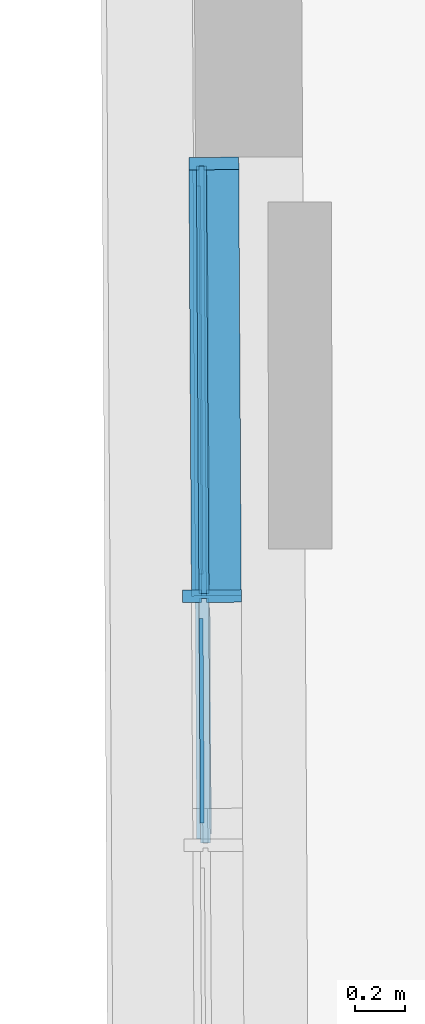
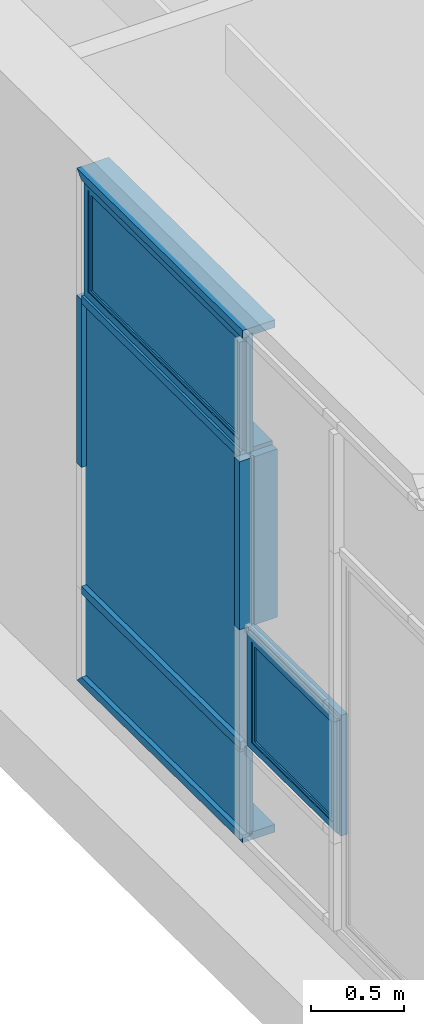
# One storey, part 96 of 158: 12 building element parts, 1 element without a shape of its own.
"""IFC2X3 building model written with IfcOpenShell, lengths in metres."""

import ifcopenshell
import ifcopenshell.guid

model = None  # the IFC model being written
_history = None  # IfcOwnerHistory: only IFC2X3 demands one
_inside = {}  # id of a spatial element -> (the spatial element, [elements in it])
_under = {}  # id of a project, library or spatial element -> (it, [spatial elements below it])
_declared = {}  # id of a project -> (the project, [libraries it declares])
_typed = {}  # id of a type object -> (the type object, [elements of that type])
_made_of = {}  # id of a material, layer set ... -> (it, [elements and type objects made of it])


def new_model(schema):
    """Start an empty IFC model of exactly this schema.

    Asked for "IFC4X3", IfcOpenShell would pick the latest addendum, in which some entities
    have other attributes; the version numbers below select the first issue.
    IFC2X3 requires an IfcOwnerHistory on every rooted entity: one is made here for all.
    """
    global model, _history
    if schema == "IFC4X3":
        model = ifcopenshell.file(schema_version=(4, 3, 0, 0))
    else:
        model = ifcopenshell.file(schema=schema)
    _inside.clear()
    _under.clear()
    _declared.clear()
    _typed.clear()
    _made_of.clear()
    _history = None
    if model.schema == "IFC2X3":
        org = make("IfcOrganization", Name="unknown")
        user = make(
            "IfcPersonAndOrganization",
            ThePerson=make("IfcPerson", FamilyName="unknown"),
            TheOrganization=org,
        )
        app = make(
            "IfcApplication",
            ApplicationDeveloper=org,
            Version="unknown",
            ApplicationFullName="unknown",
            ApplicationIdentifier="unknown",
        )
        _history = make(
            "IfcOwnerHistory",
            OwningUser=user,
            OwningApplication=app,
            ChangeAction="ADDED",
            CreationDate=0,
        )
    return model


def make(cls, **values):
    """One entity of the class cls with the attributes given. An attribute that is None is left unset."""
    return model.create_entity(
        cls, **{name: value for name, value in values.items() if value is not None}
    )


def entity(cls, *values):
    """Any entity or typed value of the class cls, its attributes in the order of the schema. None: left unset."""
    e = model.create_entity(cls)
    for i, value in enumerate(values):
        if value is not None:
            e[i] = value
    return e


def rooted(cls, **values):
    """An entity with a GlobalId (a new one), such as an element, a storey or a relation."""
    return make(cls, GlobalId=ifcopenshell.guid.new(), OwnerHistory=_history, **values)


def si_unit(unit_type, name, prefix=None):
    """IfcSIUnit, for example si_unit("LENGTHUNIT", "METRE", prefix="MILLI")."""
    return make("IfcSIUnit", UnitType=unit_type, Prefix=prefix, Name=name)


def converted_unit(unit_type, name, factor, base, dimensions=None, offset=None):
    """IfcConversionBasedUnit, such as the inch: factor (a typed value) times the base unit."""
    return make(
        "IfcConversionBasedUnit"
        if offset is None
        else "IfcConversionBasedUnitWithOffset",
        ConversionOffset=offset,
        Dimensions=None
        if dimensions is None
        else entity("IfcDimensionalExponents", *dimensions),
        UnitType=unit_type,
        Name=name,
        ConversionFactor=make(
            "IfcMeasureWithUnit", ValueComponent=factor, UnitComponent=base
        ),
    )


def derived_unit(unit_type, elements):
    """IfcDerivedUnit: a product of units, each with its exponent."""
    return make(
        "IfcDerivedUnit",
        Elements=[
            make("IfcDerivedUnitElement", Unit=unit, Exponent=power)
            for unit, power in elements
        ],
        UnitType=unit_type,
    )


def money_unit(currency):
    """IfcMonetaryUnit."""
    return make("IfcMonetaryUnit", Currency=currency)


def assignment(units):
    """IfcUnitAssignment: the units of a project."""
    return None if units is None else make("IfcUnitAssignment", Units=units)


def point(xyz):
    """IfcCartesianPoint."""
    return None if xyz is None else make("IfcCartesianPoint", Coordinates=xyz)


def direction(xyz):
    """IfcDirection."""
    return None if xyz is None else make("IfcDirection", DirectionRatios=xyz)


def frame(location, z_axis=None, x_axis=None):
    """IfcAxis2Placement3D, a coordinate frame: its origin and axes. An axis left out is left unset."""
    return make(
        "IfcAxis2Placement3D",
        Location=point(location),
        Axis=direction(z_axis),
        RefDirection=direction(x_axis),
    )


def origin_with_axes():
    """The frame at (0, 0, 0) with the z axis (0, 0, 1) and the x axis (1, 0, 0) written out."""
    return frame((0.0, 0.0, 0.0), z_axis=(0.0, 0.0, 1.0), x_axis=(1.0, 0.0, 0.0))


def place(relative_to, where):
    """IfcLocalPlacement: puts the frame where relative to a parent placement (None: the world)."""
    return make(
        "IfcLocalPlacement", PlacementRelTo=relative_to, RelativePlacement=where
    )


def context(
    kind, dimensions, precision=None, world=None, true_north=None, identifier=None
):
    """IfcGeometricRepresentationContext, for example the 3D "Model" context."""
    return make(
        "IfcGeometricRepresentationContext",
        ContextIdentifier=identifier,
        ContextType=kind,
        CoordinateSpaceDimension=dimensions,
        Precision=precision,
        WorldCoordinateSystem=world,
        TrueNorth=true_north,
    )


def subcontext(parent, identifier, kind, view, scale=None):
    """IfcGeometricRepresentationSubContext, for example "Body" below "Model"."""
    return make(
        "IfcGeometricRepresentationSubContext",
        ContextIdentifier=identifier,
        ContextType=kind,
        ParentContext=parent,
        TargetScale=scale,
        TargetView=view,
    )


def project(units=None, contexts=None):
    """IfcProject with its units and contexts."""
    return rooted(
        "IfcProject",
        Name="project",
        RepresentationContexts=contexts,
        UnitsInContext=assignment(units),
    )


def spatial(cls, under=None, at=None, **own):
    """A site, building, storey or space (cls), placed at a placement, below another one or the project."""
    s = rooted(cls, ObjectPlacement=at, **own)
    if under is not None:
        _under.setdefault(under.id(), (under, []))[1].append(s)
    return s


def faces_of(points, faces, orient=None, outer=None):
    """IfcFace entities. A face is a list of loops; a loop is a list of indices into points, from 0.

    orient and outer hold one flag for each loop. By default every Orientation is true, the
    first loop of a face is its IfcFaceOuterBound and the others are IfcFaceBound.
    """
    made = []
    for i, loops in enumerate(faces):
        bounds = []
        for j, loop in enumerate(loops):
            is_outer = j == 0 if outer is None else outer[i][j]
            bounds.append(
                make(
                    "IfcFaceOuterBound" if is_outer else "IfcFaceBound",
                    Bound=make("IfcPolyLoop", Polygon=[points[k] for k in loop]),
                    Orientation=True if orient is None else orient[i][j],
                )
            )
        made.append(make("IfcFace", Bounds=bounds))
    return made


def faceted_brep(points, faces, orient=None, outer=None, voids=None):
    """IfcFacetedBrep: a solid bounded by flat faces; with voids (closed shells), ...WithVoids."""
    shared = [point(p) for p in points]
    hull = make("IfcClosedShell", CfsFaces=faces_of(shared, faces, orient, outer))
    if voids is None:
        return make("IfcFacetedBrep", Outer=hull)
    return make(
        "IfcFacetedBrepWithVoids",
        Outer=hull,
        Voids=[
            make(cls, CfsFaces=faces_of(shared, fs, o, b)) for cls, fs, o, b in voids
        ],
    )


def shape(context_of_items, identifier, shape_type, items):
    """IfcShapeRepresentation: the items that make up one representation, for example the "Body"."""
    return make(
        "IfcShapeRepresentation",
        ContextOfItems=context_of_items,
        RepresentationIdentifier=identifier,
        RepresentationType=shape_type,
        Items=items,
    )


def material(Name=None, Category=None):
    """IfcMaterial."""
    return make("IfcMaterial", Name=Name, Category=Category)


def made_of(thing, what):
    """Note that an element or type object is made of a material, layer set ...; save() writes the relation."""
    if what is not None:
        _made_of.setdefault(what.id(), (what, []))[1].append(thing)
    return thing


def type_object(cls, material=None, **own):
    """A type object (cls), such as IfcWallType, which elements share."""
    return made_of(rooted(cls, **own), material)


def element(
    cls,
    number,
    at=None,
    inside=None,
    cuts=None,
    type_object=None,
    material=None,
    context=None,
    identifier="Body",
    shape_type=None,
    held_by="IfcProductDefinitionShape",
    body=None,
    shapes=None,
    **own,
):
    """One element of the class cls, such as IfcWall. Its Tag is "e" and its number.

    at: its placement. inside: the storey or other place that contains it. cuts: it is an
    opening in that element (IfcRelVoidsElement). A single representation is given by context,
    identifier, shape_type and body (its items); several are given by shapes. held_by: the class
    of the entity that holds the representations. save() writes the other relations.
    """
    e = rooted(cls, Tag="e%d" % number, ObjectPlacement=at, **own)
    if body is not None:
        shapes = [shape(context, identifier, shape_type, body)]
    if shapes is not None:
        e.Representation = make(held_by, Representations=shapes)
    if inside is not None:
        _inside.setdefault(inside.id(), (inside, []))[1].append(e)
    if cuts is not None:
        rooted(
            "IfcRelVoidsElement", RelatingBuildingElement=cuts, RelatedOpeningElement=e
        )
    if type_object is not None:
        _typed.setdefault(type_object.id(), (type_object, []))[1].append(e)
    return made_of(e, material)


def aggregate(whole, parts):
    """IfcRelAggregates: a whole, such as a stair, and the parts it consists of."""
    return rooted("IfcRelAggregates", RelatingObject=whole, RelatedObjects=parts)


def save(model, path):
    """Write the relations noted so far, then the file.

    IfcRelAggregates (storeys below a building ...), IfcRelContainedInSpatialStructure (elements
    in a storey), IfcRelDefinesByType, IfcRelAssociatesMaterial and IfcRelDeclares: one each for
    every whole, place, type object, material and project.
    """
    for whole, parts in _under.values():
        aggregate(whole, parts)
    for where, things in _inside.values():
        rooted(
            "IfcRelContainedInSpatialStructure",
            RelatedElements=things,
            RelatingStructure=where,
        )
    for kind, things in _typed.values():
        rooted("IfcRelDefinesByType", RelatedObjects=things, RelatingType=kind)
    for what, things in _made_of.values():
        rooted("IfcRelAssociatesMaterial", RelatedObjects=things, RelatingMaterial=what)
    for by, libraries in _declared.values():
        rooted("IfcRelDeclares", RelatingContext=by, RelatedDefinitions=libraries)
    model.write(path)


model = new_model("IFC2X3")

# Units and contexts
model_context = context("Model", 3, precision=1e-05, world=origin_with_axes(), true_north=direction((0.0, 1.0)))
body_context = subcontext(model_context, "Body", "Model", "MODEL_VIEW")
ifc_project = project(units=[si_unit("LENGTHUNIT", "METRE"), si_unit("AREAUNIT", "SQUARE_METRE"), si_unit("VOLUMEUNIT", "CUBIC_METRE"), converted_unit("PLANEANGLEUNIT", "DEGREE", entity("IfcPlaneAngleMeasure", 0.0174532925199), si_unit("PLANEANGLEUNIT", "RADIAN"), dimensions=[0, 0, 0, 0, 0, 0, 0]), money_unit("EUR"), converted_unit("TIMEUNIT", "Year", entity("IfcTimeMeasure", 31556926.0), si_unit("TIMEUNIT", "SECOND"), dimensions=[0, 0, 1, 0, 0, 0, 0]), si_unit("MASSUNIT", "GRAM", prefix="KILO"), si_unit("THERMODYNAMICTEMPERATUREUNIT", "DEGREE_CELSIUS"), si_unit("LUMINOUSINTENSITYUNIT", "LUMEN"), si_unit("ENERGYUNIT", "JOULE", prefix="MEGA"), derived_unit("THERMALCONDUCTANCEUNIT", [(si_unit("POWERUNIT", "WATT"), 1), (si_unit("LENGTHUNIT", "METRE"), -1), (si_unit("THERMODYNAMICTEMPERATUREUNIT", "KELVIN"), -1)]), derived_unit("SPECIFICHEATCAPACITYUNIT", [(si_unit("ENERGYUNIT", "JOULE"), 1), (si_unit("MASSUNIT", "GRAM", prefix="KILO"), -1), (si_unit("THERMODYNAMICTEMPERATUREUNIT", "KELVIN"), -1)]), derived_unit("MASSDENSITYUNIT", [(si_unit("MASSUNIT", "GRAM", prefix="KILO"), 1), (si_unit("VOLUMEUNIT", "CUBIC_METRE"), -1)])], contexts=[model_context])

# Site, building, storey
site_placement = place(None, origin_with_axes())
site = spatial("IfcSite", under=ifc_project, at=site_placement, Name="Gelände", CompositionType="ELEMENT")
building_placement = place(site_placement, origin_with_axes())
building = spatial("IfcBuilding", under=site, at=building_placement, Name="Gebäude", CompositionType="ELEMENT")
storey_placement = place(building_placement, origin_with_axes())
storey = spatial("IfcBuildingStorey", under=building, at=storey_placement, Name="ERDGESCHOSS", CompositionType="ELEMENT", Elevation=0.0)

# Proxy, building element parts
building_element_proxy_type = type_object("IfcBuildingElementProxyType", Name="Fassadentyp", PredefinedType="NOTDEFINED")
proxy_placement = place(storey_placement, frame((-34.8120286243, 34.4012060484, 1.3404389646), z_axis=(0.0, 0.0, 1.0), x_axis=(1.0, 0.0, 0.0)))
proxy = element("IfcBuildingElementProxy", 1, at=proxy_placement, inside=storey, type_object=building_element_proxy_type, Name="Fassade-002")
ifc_material_1 = material(Name="45_Glas, Normalglas")
building_element_part_1_placement = place(proxy_placement, origin_with_axes())
building_element_part_1 = element("IfcBuildingElementPart", 2, at=building_element_part_1_placement, material=ifc_material_1, Name="45_Glas, Normalglas", context=body_context, shape_type="Brep", body=[
    faceted_brep([(-0.00916453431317, 4.97285122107, 0.610000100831), (-0.0192251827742, 6.68827439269, 0.610000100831), (-0.0592244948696, 6.68803980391, 0.610000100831), (-0.0491638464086, 4.9726166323, 0.610000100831), (-0.00916453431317, 4.97285122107, 0.035000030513), (-0.0192251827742, 6.68827439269, 0.0350000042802), (-0.0592244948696, 6.68803980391, 0.0350000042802), (-0.0491638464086, 4.9726166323, 0.035000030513)], [[[0, 1, 2, 3]], [[0, 4, 5, 1]], [[1, 5, 6, 2]], [[3, 2, 6, 7]], [[4, 0, 3, 7]], [[5, 4, 7, 6]]]),
])
building_element_part_2_placement = place(proxy_placement, origin_with_axes())
building_element_part_2 = element("IfcBuildingElementPart", 3, at=building_element_part_2_placement, material=ifc_material_1, Name="45_Glas, Normalglas", context=body_context, shape_type="Brep", body=[
    faceted_brep([(-0.0091645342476, 4.97285120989, 2.51000010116), (-0.0192251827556, 6.68827438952, 2.51000010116), (-0.059224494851, 6.68803980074, 2.51000010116), (-0.049163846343, 4.97261662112, 2.51000010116), (-0.0091645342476, 4.97285120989, 1.42000009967), (-0.0091645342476, 4.97285120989, 0.630000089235), (-0.0192251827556, 6.68827438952, 0.630000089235), (-0.0192251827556, 6.68827438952, 1.42000009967), (-0.059224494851, 6.68803980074, 1.42000009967), (-0.059224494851, 6.68803980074, 0.630000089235), (-0.049163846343, 4.97261662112, 0.630000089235), (-0.049163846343, 4.97261662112, 1.42000009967)], [[[0, 1, 2, 3]], [[0, 4, 5, 6, 7, 1]], [[1, 7, 8, 2]], [[3, 2, 8, 9, 10, 11]], [[4, 0, 3, 11]], [[5, 4, 11, 10]], [[6, 5, 10, 9]], [[7, 6, 9, 8]]]),
])
ifc_material_2 = material(Name="53_Metall, Aluminium")
building_element_part_3_placement = place(proxy_placement, origin_with_axes())
building_element_part_3 = element("IfcBuildingElementPart", 4, at=building_element_part_3_placement, material=ifc_material_2, Name="53_Metall, Aluminium", context=body_context, shape_type="Brep", body=[
    faceted_brep([(-0.0691363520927, 6.67298141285, 2.54500009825), (-0.0592516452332, 4.98755772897, 2.54500009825), (-0.0642515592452, 4.98752840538, 2.54500009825), (-0.0741362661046, 6.67295208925, 2.54500009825), (-0.0688724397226, 6.62798218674, 2.59000009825), (-0.0595155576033, 5.03255695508, 2.59000009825), (-0.0645154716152, 5.03252763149, 2.59000009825), (-0.0738723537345, 6.62795286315, 2.59000009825)], [[[0, 1, 2, 3]], [[0, 4, 5, 1]], [[1, 5, 6, 2]], [[3, 2, 6, 7]], [[4, 0, 3, 7]], [[5, 4, 7, 6]]]),
    faceted_brep([(-0.0592516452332, 4.98755772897, 2.54500009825), (-0.0592516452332, 4.98755772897, 3.29999998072), (-0.0642515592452, 4.98752840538, 3.29999998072), (-0.0642515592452, 4.98752840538, 2.54500009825), (-0.0595155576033, 5.03255695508, 2.59000009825), (-0.0595155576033, 5.03255695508, 3.25499998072), (-0.0645154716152, 5.03252763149, 3.25499998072), (-0.0645154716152, 5.03252763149, 2.59000009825)], [[[0, 1, 2, 3]], [[0, 4, 5, 1]], [[1, 5, 6, 2]], [[3, 2, 6, 7]], [[4, 0, 3, 7]], [[5, 4, 7, 6]]]),
    faceted_brep([(-0.0691363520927, 6.67298141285, 3.29999998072), (-0.0688724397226, 6.62798218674, 3.25499998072), (-0.0738723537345, 6.62795286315, 3.25499998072), (-0.0741362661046, 6.67295208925, 3.29999998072), (-0.0592516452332, 4.98755772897, 3.29999998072), (-0.0595155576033, 5.03255695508, 3.25499998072), (-0.0645154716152, 5.03252763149, 3.25499998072), (-0.0642515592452, 4.98752840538, 3.29999998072)], [[[0, 1, 2, 3]], [[0, 4, 5, 1]], [[1, 5, 6, 2]], [[3, 2, 6, 7]], [[4, 0, 3, 7]], [[5, 4, 7, 6]]]),
    faceted_brep([(-0.0691363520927, 6.67298141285, 2.54500009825), (-0.0688724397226, 6.62798218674, 2.59000009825), (-0.0738723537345, 6.62795286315, 2.59000009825), (-0.0741362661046, 6.67295208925, 2.54500009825), (-0.0691363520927, 6.67298141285, 3.29999998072), (-0.0688724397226, 6.62798218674, 3.25499998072), (-0.0738723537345, 6.62795286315, 3.25499998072), (-0.0741362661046, 6.67295208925, 3.29999998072)], [[[0, 1, 2, 3]], [[0, 4, 5, 1]], [[1, 5, 6, 2]], [[3, 2, 6, 7]], [[4, 0, 3, 7]], [[5, 4, 7, 6]]]),
    faceted_brep([(-0.0191372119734, 6.67327464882, 2.54500009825), (-0.00925250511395, 4.98785096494, 2.54500009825), (-0.0592516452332, 4.98755772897, 2.54500009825), (-0.0691363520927, 6.67298141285, 2.54500009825), (-0.0190199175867, 6.65327499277, 2.56500009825), (-0.00936979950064, 5.00785062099, 2.56500009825), (-0.0593689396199, 5.00755738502, 2.56500009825), (-0.069019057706, 6.6529817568, 2.56500009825)], [[[0, 1, 2, 3]], [[0, 4, 5, 1]], [[1, 5, 6, 2]], [[3, 2, 6, 7]], [[4, 0, 3, 7]], [[5, 4, 7, 6]]]),
    faceted_brep([(-0.00925250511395, 4.98785096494, 2.54500009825), (-0.00925250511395, 4.98785096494, 3.29999998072), (-0.0592516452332, 4.98755772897, 3.29999998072), (-0.0592516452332, 4.98755772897, 2.54500009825), (-0.00936979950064, 5.00785062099, 2.56500009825), (-0.00936979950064, 5.00785062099, 3.27999998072), (-0.0593689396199, 5.00755738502, 3.27999998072), (-0.0593689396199, 5.00755738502, 2.56500009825)], [[[0, 1, 2, 3]], [[0, 4, 5, 1]], [[1, 5, 6, 2]], [[3, 2, 6, 7]], [[4, 0, 3, 7]], [[5, 4, 7, 6]]]),
    faceted_brep([(-0.0191372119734, 6.67327464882, 3.29999998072), (-0.0190199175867, 6.65327499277, 3.27999998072), (-0.069019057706, 6.6529817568, 3.27999998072), (-0.0691363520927, 6.67298141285, 3.29999998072), (-0.00925250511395, 4.98785096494, 3.29999998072), (-0.00936979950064, 5.00785062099, 3.27999998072), (-0.0593689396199, 5.00755738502, 3.27999998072), (-0.0592516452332, 4.98755772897, 3.29999998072)], [[[0, 1, 2, 3]], [[0, 4, 5, 1]], [[1, 5, 6, 2]], [[3, 2, 6, 7]], [[4, 0, 3, 7]], [[5, 4, 7, 6]]]),
    faceted_brep([(-0.0191372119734, 6.67327464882, 2.54500009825), (-0.0190199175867, 6.65327499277, 2.56500009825), (-0.069019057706, 6.6529817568, 2.56500009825), (-0.0691363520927, 6.67298141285, 2.54500009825), (-0.0191372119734, 6.67327464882, 3.29999998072), (-0.0190199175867, 6.65327499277, 3.27999998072), (-0.069019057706, 6.6529817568, 3.27999998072), (-0.0691363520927, 6.67298141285, 3.29999998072)], [[[0, 1, 2, 3]], [[0, 4, 5, 1]], [[1, 5, 6, 2]], [[3, 2, 6, 7]], [[4, 0, 3, 7]], [[5, 4, 7, 6]]]),
    faceted_brep([(-0.0192251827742, 6.68827439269, 2.53000009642), (-0.00916453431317, 4.97285122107, 2.53000009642), (-0.0491638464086, 4.9726166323, 2.53000009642), (-0.0592244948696, 6.68803980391, 2.53000009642), (-0.0191372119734, 6.67327464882, 2.54500009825), (-0.00925250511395, 4.98785096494, 2.54500009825), (-0.0492518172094, 4.98761637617, 2.54500009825), (-0.0591365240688, 6.67304006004, 2.54500009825)], [[[0, 1, 2, 3]], [[0, 4, 5, 1]], [[1, 5, 6, 2]], [[3, 2, 6, 7]], [[4, 0, 3, 7]], [[5, 4, 7, 6]]]),
    faceted_brep([(-0.00916453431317, 4.97285122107, 2.53000009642), (-0.00916453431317, 4.97285122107, 3.31499998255), (-0.0491638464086, 4.9726166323, 3.31499998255), (-0.0491638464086, 4.9726166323, 2.53000009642), (-0.00925250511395, 4.98785096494, 2.54500009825), (-0.00925250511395, 4.98785096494, 3.29999998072), (-0.0492518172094, 4.98761637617, 3.29999998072), (-0.0492518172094, 4.98761637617, 2.54500009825)], [[[0, 1, 2, 3]], [[0, 4, 5, 1]], [[1, 5, 6, 2]], [[3, 2, 6, 7]], [[4, 0, 3, 7]], [[5, 4, 7, 6]]]),
    faceted_brep([(-0.00916453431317, 4.97285122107, 3.31499998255), (-0.0192251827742, 6.68827439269, 3.31499998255), (-0.0592244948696, 6.68803980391, 3.31499998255), (-0.0491638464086, 4.9726166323, 3.31499998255), (-0.00925250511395, 4.98785096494, 3.29999998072), (-0.0191372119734, 6.67327464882, 3.29999998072), (-0.0591365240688, 6.67304006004, 3.29999998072), (-0.0492518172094, 4.98761637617, 3.29999998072)], [[[0, 1, 2, 3]], [[0, 4, 5, 1]], [[1, 5, 6, 2]], [[3, 2, 6, 7]], [[4, 0, 3, 7]], [[5, 4, 7, 6]]]),
    faceted_brep([(-0.0192251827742, 6.68827439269, 3.31499998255), (-0.0192251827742, 6.68827439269, 2.53000009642), (-0.0592244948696, 6.68803980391, 2.53000009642), (-0.0592244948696, 6.68803980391, 3.31499998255), (-0.0191372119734, 6.67327464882, 3.29999998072), (-0.0191372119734, 6.67327464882, 2.54500009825), (-0.0591365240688, 6.67304006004, 2.54500009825), (-0.0591365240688, 6.67304006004, 3.29999998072)], [[[0, 1, 2, 3]], [[0, 4, 5, 1]], [[1, 5, 6, 2]], [[3, 2, 6, 7]], [[4, 0, 3, 7]], [[5, 4, 7, 6]]]),
    faceted_brep([(-0.0687551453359, 6.60798253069, 2.61000009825), (-0.0137560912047, 6.60830509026, 2.61000009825), (-0.0137560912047, 6.60830509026, 3.23499998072), (-0.0687551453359, 6.60798253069, 3.23499998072), (-0.069019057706, 6.6529817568, 2.56500009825), (-0.0140200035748, 6.65330431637, 2.56500009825), (-0.0140200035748, 6.65330431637, 3.27999998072), (-0.069019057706, 6.6529817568, 3.27999998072)], [[[0, 1, 2, 3]], [[4, 5, 1, 0]], [[1, 5, 6, 2]], [[3, 2, 6, 7]], [[0, 3, 7, 4]], [[7, 6, 5, 4]]]),
    faceted_brep([(-0.0593689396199, 5.00755738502, 2.56500009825), (-0.00436988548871, 5.00787994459, 2.56500009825), (-0.00436988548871, 5.00787994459, 3.27999998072), (-0.0593689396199, 5.00755738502, 3.27999998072), (-0.05963285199, 5.05255661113, 2.61000009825), (-0.00463379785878, 5.05287917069, 2.61000009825), (-0.00463379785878, 5.05287917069, 3.23499998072), (-0.05963285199, 5.05255661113, 3.23499998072)], [[[0, 1, 2, 3]], [[4, 5, 1, 0]], [[1, 5, 6, 2]], [[3, 2, 6, 7]], [[0, 3, 7, 4]], [[7, 6, 5, 4]]]),
    faceted_brep([(-0.0593689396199, 5.00755738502, 2.56500009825), (-0.00436988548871, 5.00787994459, 2.56500009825), (-0.00463379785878, 5.05287917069, 2.61000009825), (-0.05963285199, 5.05255661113, 2.61000009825), (-0.069019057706, 6.6529817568, 2.56500009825), (-0.0140200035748, 6.65330431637, 2.56500009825), (-0.0137560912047, 6.60830509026, 2.61000009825), (-0.0687551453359, 6.60798253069, 2.61000009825)], [[[0, 1, 2, 3]], [[4, 5, 1, 0]], [[1, 5, 6, 2]], [[3, 2, 6, 7]], [[0, 3, 7, 4]], [[7, 6, 5, 4]]]),
    faceted_brep([(-0.069019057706, 6.6529817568, 3.27999998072), (-0.0140200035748, 6.65330431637, 3.27999998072), (-0.0137560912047, 6.60830509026, 3.23499998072), (-0.0687551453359, 6.60798253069, 3.23499998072), (-0.0593689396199, 5.00755738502, 3.27999998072), (-0.00436988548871, 5.00787994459, 3.27999998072), (-0.00463379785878, 5.05287917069, 3.23499998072), (-0.05963285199, 5.05255661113, 3.23499998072)], [[[0, 1, 2, 3]], [[4, 5, 1, 0]], [[1, 5, 6, 2]], [[3, 2, 6, 7]], [[0, 3, 7, 4]], [[7, 6, 5, 4]]]),
])
building_element_part_4_placement = place(proxy_placement, origin_with_axes())
building_element_part_4 = element("IfcBuildingElementPart", 5, at=building_element_part_4_placement, material=ifc_material_1, Name="45_Glas, Normalglas", context=body_context, shape_type="Brep", body=[
    faceted_brep([(-0.058755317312, 6.60804117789, 2.61000009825), (-0.0427555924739, 6.6081350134, 2.61000009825), (-0.033633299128, 5.05270909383, 2.61000009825), (-0.0496330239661, 5.05261525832, 2.61000009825), (-0.058755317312, 6.60804117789, 3.23499998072), (-0.0427555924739, 6.6081350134, 3.23499998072), (-0.033633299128, 5.05270909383, 3.23499998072), (-0.0496330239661, 5.05261525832, 3.23499998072)], [[[0, 1, 2, 3]], [[4, 5, 1, 0]], [[1, 5, 6, 2]], [[3, 2, 6, 7]], [[0, 3, 7, 4]], [[7, 6, 5, 4]]]),
])
building_element_part_5_placement = place(proxy_placement, origin_with_axes())
building_element_part_5 = element("IfcBuildingElementPart", 6, at=building_element_part_5_placement, material=ifc_material_2, Name="53_Metall, Aluminium", context=body_context, shape_type="Brep", body=[
    faceted_brep([(-0.0589584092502, 4.93755858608, 0.645000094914), (-0.0533903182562, 3.98815335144, 0.645000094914), (-0.0583902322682, 3.98812402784, 0.645000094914), (-0.0639583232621, 4.93752926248, 0.645000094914), (-0.0586944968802, 4.89255935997, 0.690000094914), (-0.0536542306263, 4.03315257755, 0.690000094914), (-0.0586541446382, 4.03312325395, 0.690000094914), (-0.0636944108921, 4.89253003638, 0.690000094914)], [[[0, 1, 2, 3]], [[0, 4, 5, 1]], [[1, 5, 6, 2]], [[3, 2, 6, 7]], [[4, 0, 3, 7]], [[5, 4, 7, 6]]]),
    faceted_brep([(-0.0533903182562, 3.98815335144, 0.645000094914), (-0.0533903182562, 3.98815335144, 1.39500010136), (-0.0583902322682, 3.98812402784, 1.39500010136), (-0.0583902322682, 3.98812402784, 0.645000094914), (-0.0536542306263, 4.03315257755, 0.690000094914), (-0.0536542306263, 4.03315257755, 1.35000010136), (-0.0586541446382, 4.03312325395, 1.35000010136), (-0.0586541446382, 4.03312325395, 0.690000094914)], [[[0, 1, 2, 3]], [[0, 4, 5, 1]], [[1, 5, 6, 2]], [[3, 2, 6, 7]], [[4, 0, 3, 7]], [[5, 4, 7, 6]]]),
    faceted_brep([(-0.0589584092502, 4.93755858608, 1.39500010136), (-0.0586944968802, 4.89255935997, 1.35000010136), (-0.0636944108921, 4.89253003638, 1.35000010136), (-0.0639583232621, 4.93752926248, 1.39500010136), (-0.0533903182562, 3.98815335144, 1.39500010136), (-0.0536542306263, 4.03315257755, 1.35000010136), (-0.0586541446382, 4.03312325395, 1.35000010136), (-0.0583902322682, 3.98812402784, 1.39500010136)], [[[0, 1, 2, 3]], [[0, 4, 5, 1]], [[1, 5, 6, 2]], [[3, 2, 6, 7]], [[4, 0, 3, 7]], [[5, 4, 7, 6]]]),
    faceted_brep([(-0.0589584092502, 4.93755858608, 0.645000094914), (-0.0586944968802, 4.89255935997, 0.690000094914), (-0.0636944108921, 4.89253003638, 0.690000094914), (-0.0639583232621, 4.93752926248, 0.645000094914), (-0.0589584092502, 4.93755858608, 1.39500010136), (-0.0586944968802, 4.89255935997, 1.35000010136), (-0.0636944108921, 4.89253003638, 1.35000010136), (-0.0639583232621, 4.93752926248, 1.39500010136)], [[[0, 1, 2, 3]], [[0, 4, 5, 1]], [[1, 5, 6, 2]], [[3, 2, 6, 7]], [[4, 0, 3, 7]], [[5, 4, 7, 6]]]),
    faceted_brep([(-0.00895926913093, 4.93785182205, 0.645000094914), (-0.00339117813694, 3.98844658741, 0.645000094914), (-0.0533903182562, 3.98815335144, 0.645000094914), (-0.0589584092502, 4.93755858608, 0.645000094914), (-0.00884197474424, 4.917852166, 0.665000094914), (-0.00350847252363, 4.00844624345, 0.665000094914), (-0.0535076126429, 4.00815300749, 0.665000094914), (-0.0588411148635, 4.91755893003, 0.665000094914)], [[[0, 1, 2, 3]], [[0, 4, 5, 1]], [[1, 5, 6, 2]], [[3, 2, 6, 7]], [[4, 0, 3, 7]], [[5, 4, 7, 6]]]),
    faceted_brep([(-0.00339117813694, 3.98844658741, 0.645000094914), (-0.00339117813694, 3.98844658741, 1.39500010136), (-0.0533903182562, 3.98815335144, 1.39500010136), (-0.0533903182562, 3.98815335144, 0.645000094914), (-0.00350847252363, 4.00844624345, 0.665000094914), (-0.00350847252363, 4.00844624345, 1.37500010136), (-0.0535076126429, 4.00815300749, 1.37500010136), (-0.0535076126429, 4.00815300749, 0.665000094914)], [[[0, 1, 2, 3]], [[0, 4, 5, 1]], [[1, 5, 6, 2]], [[3, 2, 6, 7]], [[4, 0, 3, 7]], [[5, 4, 7, 6]]]),
    faceted_brep([(-0.00895926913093, 4.93785182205, 1.39500010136), (-0.00884197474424, 4.917852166, 1.37500010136), (-0.0588411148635, 4.91755893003, 1.37500010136), (-0.0589584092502, 4.93755858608, 1.39500010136), (-0.00339117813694, 3.98844658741, 1.39500010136), (-0.00350847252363, 4.00844624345, 1.37500010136), (-0.0535076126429, 4.00815300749, 1.37500010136), (-0.0533903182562, 3.98815335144, 1.39500010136)], [[[0, 1, 2, 3]], [[0, 4, 5, 1]], [[1, 5, 6, 2]], [[3, 2, 6, 7]], [[4, 0, 3, 7]], [[5, 4, 7, 6]]]),
    faceted_brep([(-0.00895926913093, 4.93785182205, 0.645000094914), (-0.00884197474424, 4.917852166, 0.665000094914), (-0.0588411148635, 4.91755893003, 0.665000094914), (-0.0589584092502, 4.93755858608, 0.645000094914), (-0.00895926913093, 4.93785182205, 1.39500010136), (-0.00884197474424, 4.917852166, 1.37500010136), (-0.0588411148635, 4.91755893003, 1.37500010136), (-0.0589584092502, 4.93755858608, 1.39500010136)], [[[0, 1, 2, 3]], [[0, 4, 5, 1]], [[1, 5, 6, 2]], [[3, 2, 6, 7]], [[4, 0, 3, 7]], [[5, 4, 7, 6]]]),
    faceted_brep([(-0.0090472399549, 4.95285156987, 0.630000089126), (-0.00330320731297, 3.97344683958, 0.630000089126), (-0.0433025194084, 3.97321225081, 0.630000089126), (-0.0490465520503, 4.9526169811, 0.630000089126), (-0.00895926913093, 4.93785182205, 0.645000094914), (-0.00339117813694, 3.98844658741, 0.645000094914), (-0.0433904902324, 3.98821199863, 0.645000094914), (-0.0489585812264, 4.93761723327, 0.645000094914)], [[[0, 1, 2, 3]], [[0, 4, 5, 1]], [[1, 5, 6, 2]], [[3, 2, 6, 7]], [[4, 0, 3, 7]], [[5, 4, 7, 6]]]),
    faceted_brep([(-0.00330320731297, 3.97344683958, 0.630000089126), (-0.00330320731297, 3.97344683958, 1.42000010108), (-0.0433025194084, 3.97321225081, 1.42000010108), (-0.0433025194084, 3.97321225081, 0.630000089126), (-0.00339117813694, 3.98844658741, 0.645000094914), (-0.00339117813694, 3.98844658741, 1.39500010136), (-0.0433904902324, 3.98821199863, 1.39500010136), (-0.0433904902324, 3.98821199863, 0.645000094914)], [[[0, 1, 2, 3]], [[0, 4, 5, 1]], [[1, 5, 6, 2]], [[3, 2, 6, 7]], [[4, 0, 3, 7]], [[5, 4, 7, 6]]]),
    faceted_brep([(-0.00330320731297, 3.97344683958, 1.42000010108), (-0.0090472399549, 4.95285156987, 1.42000010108), (-0.0490465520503, 4.9526169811, 1.42000010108), (-0.0433025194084, 3.97321225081, 1.42000010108), (-0.00339117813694, 3.98844658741, 1.39500010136), (-0.00895926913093, 4.93785182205, 1.39500010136), (-0.0489585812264, 4.93761723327, 1.39500010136), (-0.0433904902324, 3.98821199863, 1.39500010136)], [[[0, 1, 2, 3]], [[0, 4, 5, 1]], [[1, 5, 6, 2]], [[3, 2, 6, 7]], [[4, 0, 3, 7]], [[5, 4, 7, 6]]]),
    faceted_brep([(-0.0090472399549, 4.95285156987, 1.42000010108), (-0.0090472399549, 4.95285156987, 0.630000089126), (-0.0490465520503, 4.9526169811, 0.630000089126), (-0.0490465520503, 4.9526169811, 1.42000010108), (-0.00895926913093, 4.93785182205, 1.39500010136), (-0.00895926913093, 4.93785182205, 0.645000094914), (-0.0489585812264, 4.93761723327, 0.645000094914), (-0.0489585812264, 4.93761723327, 1.39500010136)], [[[0, 1, 2, 3]], [[0, 4, 5, 1]], [[1, 5, 6, 2]], [[3, 2, 6, 7]], [[4, 0, 3, 7]], [[5, 4, 7, 6]]]),
    faceted_brep([(-0.0585772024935, 4.87255970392, 0.710000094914), (-0.00357814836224, 4.87288226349, 0.710000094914), (-0.00357814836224, 4.87288226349, 1.33000010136), (-0.0585772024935, 4.87255970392, 1.33000010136), (-0.0588411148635, 4.91755893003, 0.665000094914), (-0.00384206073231, 4.9178814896, 0.665000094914), (-0.00384206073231, 4.9178814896, 1.37500010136), (-0.0588411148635, 4.91755893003, 1.37500010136)], [[[0, 1, 2, 3]], [[4, 5, 1, 0]], [[1, 5, 6, 2]], [[3, 2, 6, 7]], [[0, 3, 7, 4]], [[7, 6, 5, 4]]]),
    faceted_brep([(-0.0535076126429, 4.00815300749, 0.665000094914), (0.0014914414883, 4.00847556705, 0.665000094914), (0.0014914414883, 4.00847556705, 1.37500010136), (-0.0535076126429, 4.00815300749, 1.37500010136), (-0.053771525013, 4.05315223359, 0.710000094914), (0.00122752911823, 4.05347479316, 0.710000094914), (0.00122752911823, 4.05347479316, 1.33000010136), (-0.053771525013, 4.05315223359, 1.33000010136)], [[[0, 1, 2, 3]], [[4, 5, 1, 0]], [[1, 5, 6, 2]], [[3, 2, 6, 7]], [[0, 3, 7, 4]], [[7, 6, 5, 4]]]),
    faceted_brep([(-0.0535076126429, 4.00815300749, 0.665000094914), (0.0014914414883, 4.00847556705, 0.665000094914), (0.00122752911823, 4.05347479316, 0.710000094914), (-0.053771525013, 4.05315223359, 0.710000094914), (-0.0588411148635, 4.91755893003, 0.665000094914), (-0.00384206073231, 4.9178814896, 0.665000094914), (-0.00357814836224, 4.87288226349, 0.710000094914), (-0.0585772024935, 4.87255970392, 0.710000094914)], [[[0, 1, 2, 3]], [[4, 5, 1, 0]], [[1, 5, 6, 2]], [[3, 2, 6, 7]], [[0, 3, 7, 4]], [[7, 6, 5, 4]]]),
    faceted_brep([(-0.0588411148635, 4.91755893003, 1.37500010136), (-0.00384206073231, 4.9178814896, 1.37500010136), (-0.00357814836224, 4.87288226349, 1.33000010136), (-0.0585772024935, 4.87255970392, 1.33000010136), (-0.0535076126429, 4.00815300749, 1.37500010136), (0.0014914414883, 4.00847556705, 1.37500010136), (0.00122752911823, 4.05347479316, 1.33000010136), (-0.053771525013, 4.05315223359, 1.33000010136)], [[[0, 1, 2, 3]], [[4, 5, 1, 0]], [[1, 5, 6, 2]], [[3, 2, 6, 7]], [[0, 3, 7, 4]], [[7, 6, 5, 4]]]),
])
building_element_part_6_placement = place(proxy_placement, origin_with_axes())
building_element_part_6 = element("IfcBuildingElementPart", 7, at=building_element_part_6_placement, material=ifc_material_1, Name="45_Glas, Normalglas", context=body_context, shape_type="Brep", body=[
    faceted_brep([(-0.0485773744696, 4.87261835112, 0.710000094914), (-0.0325776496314, 4.87271218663, 0.710000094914), (-0.027771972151, 4.0533047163, 0.710000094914), (-0.0437716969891, 4.05321088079, 0.710000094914), (-0.0485773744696, 4.87261835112, 1.33000010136), (-0.0325776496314, 4.87271218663, 1.33000010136), (-0.027771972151, 4.0533047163, 1.33000010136), (-0.0437716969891, 4.05321088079, 1.33000010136)], [[[0, 1, 2, 3]], [[4, 5, 1, 0]], [[1, 5, 6, 2]], [[3, 2, 6, 7]], [[0, 3, 7, 4]], [[7, 6, 5, 4]]]),
])
building_element_part_7_placement = place(proxy_placement, origin_with_axes())
building_element_part_7 = element("IfcBuildingElementPart", 8, at=building_element_part_7_placement, material=ifc_material_2, Name="53_Metall, Aluminium", context=body_context, shape_type="Brep", body=[
    faceted_brep([(-0.0192523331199, 4.98779231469, 0.610000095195), (-0.0192523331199, 4.98779231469, 0.595000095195), (0.120745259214, 4.9886133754, 0.595000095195), (0.120745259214, 4.9886133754, 0.645000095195), (-0.0192523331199, 4.98779231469, 0.645000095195), (-0.0192523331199, 4.98779231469, 0.630000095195), (-0.0392519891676, 4.9876750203, 0.630000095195), (-0.0392519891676, 4.9876750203, 0.645000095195), (-0.079251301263, 4.98744043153, 0.645000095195), (-0.079251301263, 4.98744043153, 0.595000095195), (-0.0392519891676, 4.9876750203, 0.595000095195), (-0.0392519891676, 4.9876750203, 0.610000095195), (-0.0291370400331, 6.67321600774, 0.610000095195), (-0.0291370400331, 6.67321600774, 0.595000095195), (0.110860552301, 6.67403706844, 0.595000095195), (0.110860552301, 6.67403706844, 0.645000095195), (-0.0291370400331, 6.67321600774, 0.645000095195), (-0.0291370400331, 6.67321600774, 0.630000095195), (-0.0491366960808, 6.67309871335, 0.630000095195), (-0.0491366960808, 6.67309871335, 0.645000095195), (-0.0891360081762, 6.67286412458, 0.645000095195), (-0.0891360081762, 6.67286412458, 0.595000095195), (-0.0491366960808, 6.67309871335, 0.595000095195), (-0.0491366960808, 6.67309871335, 0.610000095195)], [[[0, 1, 2, 3, 4, 5, 6, 7, 8, 9, 10, 11]], [[1, 0, 12, 13]], [[1, 13, 14, 2]], [[2, 14, 15, 3]], [[4, 3, 15, 16]], [[4, 16, 17, 5]], [[5, 17, 18, 6]], [[7, 6, 18, 19]], [[19, 20, 8, 7]], [[8, 20, 21, 9]], [[22, 10, 9, 21]], [[11, 10, 22, 23]], [[0, 11, 23, 12]], [[23, 22, 21, 20, 19, 18, 17, 16, 15, 14, 13, 12]]]),
])
building_element_part_8_placement = place(proxy_placement, origin_with_axes())
building_element_part_8 = element("IfcBuildingElementPart", 9, at=building_element_part_8_placement, material=ifc_material_2, Name="53_Metall, Aluminium", context=body_context, shape_type="Brep", body=[
    faceted_brep([(-0.0191057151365, 4.96279274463, 0.035), (-0.0391053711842, 4.96267545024, 0.035), (-0.0391053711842, 4.96267545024, 0.05), (-0.0791046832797, 4.96244086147, 0.05), (-0.0791046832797, 4.96244086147, 0.0), (0.120891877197, 4.96361380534, 0.0), (0.120891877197, 4.96361380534, 0.05), (-0.0191057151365, 4.96279274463, 0.05), (-0.0292250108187, 6.68821574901, 0.035), (-0.0492246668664, 6.68809845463, 0.035), (-0.0491366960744, 6.67309871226, 0.05), (-0.0891360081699, 6.67286412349, 0.05), (-0.089429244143, 6.7228632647, 0.0), (0.110567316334, 6.72403620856, 0.0), (0.110860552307, 6.67403706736, 0.05), (-0.0291370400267, 6.67321600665, 0.05)], [[[0, 1, 2, 3, 4, 5, 6, 7]], [[1, 0, 8, 9]], [[10, 2, 1, 9]], [[2, 10, 11, 3]], [[4, 3, 11, 12]], [[5, 4, 12, 13]], [[6, 5, 13, 14]], [[15, 7, 6, 14]], [[0, 7, 15, 8]], [[8, 15, 14, 13, 12, 11, 10, 9]]]),
])
building_element_part_9_placement = place(proxy_placement, origin_with_axes())
building_element_part_9 = element("IfcBuildingElementPart", 10, at=building_element_part_9_placement, material=ifc_material_2, Name="53_Metall, Aluminium", context=body_context, shape_type="Brep", body=[
    faceted_brep([(-0.0292250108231, 6.68821574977, 2.5200000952), (-0.0291370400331, 6.67321600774, 2.5200000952), (0.110860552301, 6.67403706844, 2.5200000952), (0.110567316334, 6.72403620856, 2.5200000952), (-0.089429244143, 6.7228632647, 2.5200000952), (-0.0891360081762, 6.67286412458, 2.5200000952), (-0.0491366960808, 6.67309871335, 2.5200000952), (-0.0492246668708, 6.68809845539, 2.5200000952), (-0.0292250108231, 6.68821574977, 1.4200000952), (-0.0291370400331, 6.67321600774, 1.4200000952), (0.110860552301, 6.67403706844, 1.4200000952), (0.110567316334, 6.72403620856, 1.4200000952), (-0.089429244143, 6.7228632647, 1.4200000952), (-0.0891360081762, 6.67286412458, 1.4200000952), (-0.0491366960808, 6.67309871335, 1.4200000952), (-0.0492246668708, 6.68809845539, 1.4200000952)], [[[0, 1, 2, 3, 4, 5, 6, 7]], [[0, 8, 9, 1]], [[9, 10, 2, 1]], [[10, 11, 3, 2]], [[11, 12, 4, 3]], [[12, 13, 5, 4]], [[6, 5, 13, 14]], [[14, 15, 7, 6]], [[7, 15, 8, 0]], [[8, 15, 14, 13, 12, 11, 10, 9]]]),
])
building_element_part_10_placement = place(proxy_placement, origin_with_axes())
building_element_part_10 = element("IfcBuildingElementPart", 11, at=building_element_part_10_placement, material=ifc_material_2, Name="53_Metall, Aluminium", context=body_context, shape_type="Brep", body=[
    faceted_brep([(-0.0192523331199, 4.98779231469, 2.5100000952), (-0.0192523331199, 4.98779231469, 2.4950000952), (0.120745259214, 4.9886133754, 2.4950000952), (0.120745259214, 4.9886133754, 2.5450000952), (-0.0192523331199, 4.98779231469, 2.5450000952), (-0.0192523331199, 4.98779231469, 2.5300000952), (-0.0392519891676, 4.9876750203, 2.5300000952), (-0.0392519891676, 4.9876750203, 2.5450000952), (-0.079251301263, 4.98744043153, 2.5450000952), (-0.079251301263, 4.98744043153, 2.4950000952), (-0.0392519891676, 4.9876750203, 2.4950000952), (-0.0392519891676, 4.9876750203, 2.5100000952), (-0.0291370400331, 6.67321600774, 2.5100000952), (-0.0291370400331, 6.67321600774, 2.4950000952), (0.110860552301, 6.67403706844, 2.4950000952), (0.110860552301, 6.67403706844, 2.5450000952), (-0.0291370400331, 6.67321600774, 2.5450000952), (-0.0291370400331, 6.67321600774, 2.5300000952), (-0.0491366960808, 6.67309871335, 2.5300000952), (-0.0491366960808, 6.67309871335, 2.5450000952), (-0.0891360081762, 6.67286412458, 2.5450000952), (-0.0891360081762, 6.67286412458, 2.4950000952), (-0.0491366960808, 6.67309871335, 2.4950000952), (-0.0491366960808, 6.67309871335, 2.5100000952)], [[[0, 1, 2, 3, 4, 5, 6, 7, 8, 9, 10, 11]], [[1, 0, 12, 13]], [[1, 13, 14, 2]], [[2, 14, 15, 3]], [[4, 3, 15, 16]], [[4, 16, 17, 5]], [[5, 17, 18, 6]], [[7, 6, 18, 19]], [[19, 20, 8, 7]], [[8, 20, 21, 9]], [[22, 10, 9, 21]], [[11, 10, 22, 23]], [[0, 11, 23, 12]], [[23, 22, 21, 20, 19, 18, 17, 16, 15, 14, 13, 12]]]),
])
building_element_part_11_placement = place(proxy_placement, origin_with_axes())
building_element_part_11 = element("IfcBuildingElementPart", 12, at=building_element_part_11_placement, material=ifc_material_2, Name="53_Metall, Aluminium", context=body_context, shape_type="Brep", body=[
    faceted_brep([(-0.0190470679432, 4.95279291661, 2.52000009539), (-0.0189590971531, 4.93779317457, 2.52000009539), (0.121038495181, 4.93861423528, 2.52000009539), (0.120745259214, 4.9886133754, 2.52000009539), (-0.0192523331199, 4.98779231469, 2.52000009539), (-0.0191643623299, 4.97279257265, 2.52000009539), (-0.0391640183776, 4.97267527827, 2.52000009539), (-0.0392519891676, 4.9876750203, 2.52000009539), (-0.114250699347, 4.98723516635, 2.52000009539), (-0.11395746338, 4.93723602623, 2.52000009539), (-0.0389587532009, 4.93767588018, 2.52000009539), (-0.0390467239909, 4.95267562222, 2.52000009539), (-0.0190470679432, 4.95279291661, 1.420000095), (-0.0189590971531, 4.93779317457, 1.420000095), (0.121038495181, 4.93861423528, 1.420000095), (0.120745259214, 4.9886133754, 1.420000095), (-0.0192523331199, 4.98779231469, 1.420000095), (-0.0191643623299, 4.97279257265, 1.420000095), (-0.0391640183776, 4.97267527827, 1.420000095), (-0.0392519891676, 4.9876750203, 1.420000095), (-0.114250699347, 4.98723516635, 1.420000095), (-0.11395746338, 4.93723602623, 1.420000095), (-0.0389587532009, 4.93767588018, 1.420000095), (-0.0390467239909, 4.95267562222, 1.420000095)], [[[0, 1, 2, 3, 4, 5, 6, 7, 8, 9, 10, 11]], [[1, 0, 12, 13]], [[1, 13, 14, 2]], [[3, 2, 14, 15]], [[4, 3, 15, 16]], [[4, 16, 17, 5]], [[5, 17, 18, 6]], [[7, 6, 18, 19]], [[19, 20, 8, 7]], [[9, 8, 20, 21]], [[22, 10, 9, 21]], [[11, 10, 22, 23]], [[0, 11, 23, 12]], [[23, 22, 21, 20, 19, 18, 17, 16, 15, 14, 13, 12]]]),
])
building_element_part_12_placement = place(proxy_placement, origin_with_axes())
building_element_part_12 = element("IfcBuildingElementPart", 13, at=building_element_part_12_placement, material=ifc_material_2, Name="53_Metall, Aluminium", context=body_context, shape_type="Brep", body=[
    faceted_brep([(-0.0191057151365, 4.96279274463, 3.31499999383), (-0.0191057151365, 4.96279274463, 3.29999999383), (0.120891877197, 4.96361380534, 3.29999999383), (0.120891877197, 4.96361380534, 3.34999999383), (-0.0791046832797, 4.96244086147, 3.34999999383), (-0.0791046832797, 4.96244086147, 3.29999999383), (-0.0391053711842, 4.96267545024, 3.29999999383), (-0.0391053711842, 4.96267545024, 3.31499999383), (-0.0292250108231, 6.68821574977, 3.31499999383), (-0.0291370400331, 6.67321600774, 3.29999999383), (0.110860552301, 6.67403706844, 3.29999999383), (0.110567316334, 6.72403620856, 3.34999999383), (-0.089429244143, 6.7228632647, 3.34999999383), (-0.0891360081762, 6.67286412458, 3.29999999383), (-0.0491366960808, 6.67309871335, 3.29999999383), (-0.0492246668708, 6.68809845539, 3.31499999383)], [[[0, 1, 2, 3, 4, 5, 6, 7]], [[0, 8, 9, 1]], [[9, 10, 2, 1]], [[2, 10, 11, 3]], [[3, 11, 12, 4]], [[4, 12, 13, 5]], [[6, 5, 13, 14]], [[14, 15, 7, 6]], [[7, 15, 8, 0]], [[8, 15, 14, 13, 12, 11, 10, 9]]]),
])
aggregate(proxy, [building_element_part_1, building_element_part_2, building_element_part_3, building_element_part_4, building_element_part_5, building_element_part_6, building_element_part_7, building_element_part_8, building_element_part_9, building_element_part_10, building_element_part_11, building_element_part_12])

save(model, "model.ifc")
